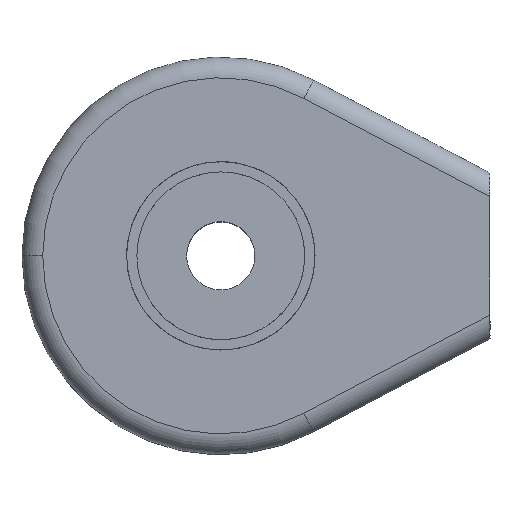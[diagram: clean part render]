
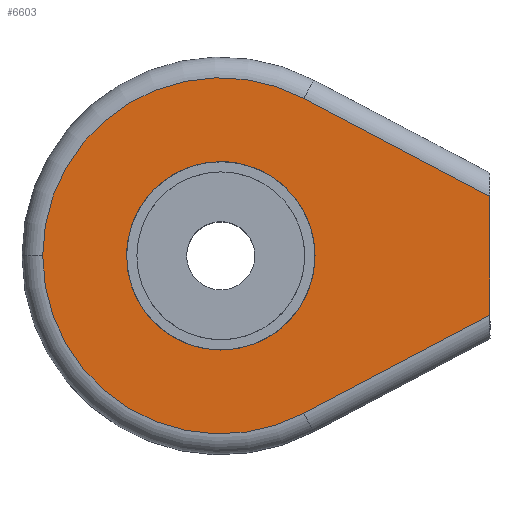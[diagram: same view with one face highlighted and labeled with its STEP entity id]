
A CAD part, top view. The second image highlights one B-rep face of the part: STEP entity #6603.
In plain terms, the highlighted planar face has unit normal (0, 0, 1).
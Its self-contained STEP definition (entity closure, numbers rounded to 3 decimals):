
#146 = DIRECTION ( 'NONE',  ( 0., 1., 0. ) ) ;
#254 = CARTESIAN_POINT ( 'NONE',  ( 4.01, -7.608, 4.55 ) ) ;
#431 = DIRECTION ( 'NONE',  ( 0., 0., 1. ) ) ;
#499 = AXIS2_PLACEMENT_3D ( 'NONE', #5327, #4078, #4722 ) ;
#525 = AXIS2_PLACEMENT_3D ( 'NONE', #3879, #2751, #3319 ) ;
#622 = LINE ( 'NONE', #4662, #4425 ) ;
#628 = ORIENTED_EDGE ( 'NONE', *, *, #916, .T. ) ;
#713 = ORIENTED_EDGE ( 'NONE', *, *, #3803, .T. ) ;
#742 = FACE_OUTER_BOUND ( 'NONE', #6405, .T. ) ;
#778 = DIRECTION ( 'NONE',  ( -1., 0., 0. ) ) ;
#916 = EDGE_CURVE ( 'NONE', #4836, #3980, #7223, .T. ) ;
#923 = VERTEX_POINT ( 'NONE', #1467 ) ;
#1051 = CARTESIAN_POINT ( 'NONE',  ( 0., 0., 4.55 ) ) ;
#1405 = EDGE_CURVE ( 'NONE', #7473, #923, #5466, .T. ) ;
#1437 = VECTOR ( 'NONE', #146, 1000. ) ;
#1467 = CARTESIAN_POINT ( 'NONE',  ( 4.55, 0., 4.55 ) ) ;
#1527 = CARTESIAN_POINT ( 'NONE',  ( 4.01, -7.608, 4.55 ) ) ;
#2441 = DIRECTION ( 'NONE',  ( 0., 0., -1. ) ) ;
#2469 = CARTESIAN_POINT ( 'NONE',  ( 0., 0., 4.55 ) ) ;
#2510 = ORIENTED_EDGE ( 'NONE', *, *, #3111, .F. ) ;
#2645 = CIRCLE ( 'NONE', #3849, 8.6 ) ;
#2654 = DIRECTION ( 'NONE',  ( 0., 0., 1. ) ) ;
#2751 = DIRECTION ( 'NONE',  ( 0., 0., 1. ) ) ;
#2828 = DIRECTION ( 'NONE',  ( -1., 0., 0. ) ) ;
#3018 = LINE ( 'NONE', #6513, #1437 ) ;
#3079 = ORIENTED_EDGE ( 'NONE', *, *, #6337, .T. ) ;
#3109 = PLANE ( 'NONE',  #5684 ) ;
#3111 = EDGE_CURVE ( 'NONE', #923, #7473, #7253, .T. ) ;
#3319 = DIRECTION ( 'NONE',  ( 1., 0., 0. ) ) ;
#3535 = FACE_BOUND ( 'NONE', #7222, .T. ) ;
#3566 = CARTESIAN_POINT ( 'NONE',  ( -8.6, 0., 4.55 ) ) ;
#3590 = CARTESIAN_POINT ( 'NONE',  ( -4.55, 0., 4.55 ) ) ;
#3803 = EDGE_CURVE ( 'NONE', #7318, #6139, #622, .T. ) ;
#3849 = AXIS2_PLACEMENT_3D ( 'NONE', #1051, #431, #2828 ) ;
#3879 = CARTESIAN_POINT ( 'NONE',  ( 0., 0., 4.55 ) ) ;
#3942 = ORIENTED_EDGE ( 'NONE', *, *, #1405, .F. ) ;
#3980 = VERTEX_POINT ( 'NONE', #5597 ) ;
#4078 = DIRECTION ( 'NONE',  ( 0., 0., 1. ) ) ;
#4169 = CARTESIAN_POINT ( 'NONE',  ( 0., 0., 4.55 ) ) ;
#4425 = VECTOR ( 'NONE', #5734, 1000. ) ;
#4507 = VECTOR ( 'NONE', #7307, 1000. ) ;
#4518 = CARTESIAN_POINT ( 'NONE',  ( 13., 2.87, 4.55 ) ) ;
#4662 = CARTESIAN_POINT ( 'NONE',  ( 4.01, 7.608, 4.55 ) ) ;
#4722 = DIRECTION ( 'NONE',  ( 1., 0., 0. ) ) ;
#4836 = VERTEX_POINT ( 'NONE', #1527 ) ;
#5076 = AXIS2_PLACEMENT_3D ( 'NONE', #2469, #2654, #6714 ) ;
#5327 = CARTESIAN_POINT ( 'NONE',  ( 0., 0., 4.55 ) ) ;
#5466 = CIRCLE ( 'NONE', #525, 4.55 ) ;
#5597 = CARTESIAN_POINT ( 'NONE',  ( 13., -2.87, 4.55 ) ) ;
#5684 = AXIS2_PLACEMENT_3D ( 'NONE', #4169, #2441, #778 ) ;
#5734 = DIRECTION ( 'NONE',  ( -0.885, 0.466, 0. ) ) ;
#5812 = EDGE_CURVE ( 'NONE', #6139, #7016, #2645, .T. ) ;
#6139 = VERTEX_POINT ( 'NONE', #7472 ) ;
#6337 = EDGE_CURVE ( 'NONE', #3980, #7318, #3018, .T. ) ;
#6405 = EDGE_LOOP ( 'NONE', ( #3079, #713, #7179, #7031, #628 ) ) ;
#6513 = CARTESIAN_POINT ( 'NONE',  ( 13., 4., 4.55 ) ) ;
#6603 = ADVANCED_FACE ( 'NONE', ( #742, #3535 ), #3109, .F. ) ;
#6714 = DIRECTION ( 'NONE',  ( -1., 0., 0. ) ) ;
#6782 = CIRCLE ( 'NONE', #5076, 8.6 ) ;
#7016 = VERTEX_POINT ( 'NONE', #3566 ) ;
#7031 = ORIENTED_EDGE ( 'NONE', *, *, #7108, .T. ) ;
#7108 = EDGE_CURVE ( 'NONE', #7016, #4836, #6782, .T. ) ;
#7179 = ORIENTED_EDGE ( 'NONE', *, *, #5812, .T. ) ;
#7222 = EDGE_LOOP ( 'NONE', ( #3942, #2510 ) ) ;
#7223 = LINE ( 'NONE', #254, #4507 ) ;
#7253 = CIRCLE ( 'NONE', #499, 4.55 ) ;
#7307 = DIRECTION ( 'NONE',  ( 0.885, 0.466, 0. ) ) ;
#7318 = VERTEX_POINT ( 'NONE', #4518 ) ;
#7472 = CARTESIAN_POINT ( 'NONE',  ( 4.01, 7.608, 4.55 ) ) ;
#7473 = VERTEX_POINT ( 'NONE', #3590 ) ;
